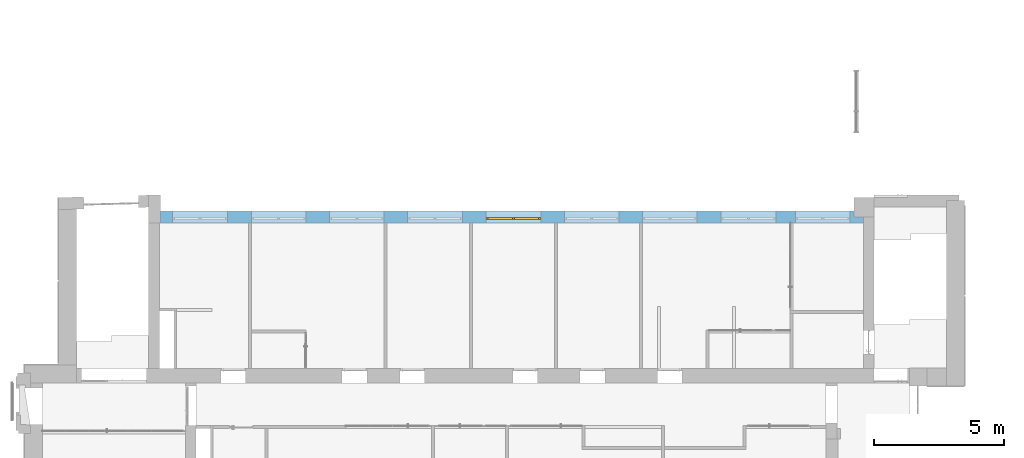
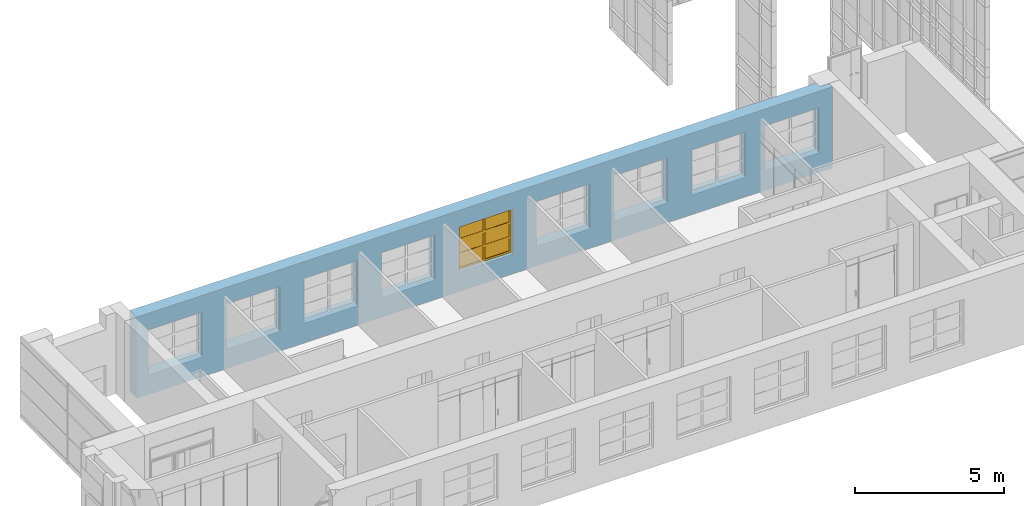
# One storey, part 63 of 73: 1 window, 9 openings, plus 1 element that does not belong to this part.
"""IFC2X3 building model written with IfcOpenShell, lengths in millimetres."""

from ifc_helpers import new_model, entity, si_unit, converted_unit, derived_unit, direction, frame, frame_2d, origin, origin_2d_with_axis, place, context, subcontext, project, spatial, polyline, rectangle, outline, extrude, face_set, surface_model, source, transform, mapped, material, material_list, layer, layer_set, layer_usage, type_object, type_shapes, element, fill, save


model = new_model("IFC2X3")

# Units and contexts
model_context = context("Model", 3, precision=0.01, world=origin(), true_north=direction((6.12303176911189e-17, 1.0)))
body_context = subcontext(model_context, "Body", "Model", "MODEL_VIEW")
ifc_project = project(units=[si_unit("LENGTHUNIT", "METRE", prefix="MILLI"), si_unit("AREAUNIT", "SQUARE_METRE"), si_unit("VOLUMEUNIT", "CUBIC_METRE"), converted_unit("PLANEANGLEUNIT", "DEGREE", entity("IfcRatioMeasure", 0.0174532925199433), si_unit("PLANEANGLEUNIT", "RADIAN"), dimensions=[0, 0, 0, 0, 0, 0, 0]), si_unit("MASSUNIT", "GRAM", prefix="KILO"), derived_unit("MASSDENSITYUNIT", [(si_unit("MASSUNIT", "GRAM", prefix="KILO"), 1), (si_unit("LENGTHUNIT", "METRE"), -3)]), si_unit("TIMEUNIT", "SECOND"), si_unit("FREQUENCYUNIT", "HERTZ"), si_unit("THERMODYNAMICTEMPERATUREUNIT", "DEGREE_CELSIUS"), derived_unit("THERMALTRANSMITTANCEUNIT", [(si_unit("MASSUNIT", "GRAM", prefix="KILO"), 1), (si_unit("THERMODYNAMICTEMPERATUREUNIT", "KELVIN"), -1), (si_unit("TIMEUNIT", "SECOND"), -3)]), derived_unit("VOLUMETRICFLOWRATEUNIT", [(si_unit("LENGTHUNIT", "METRE"), 3), (si_unit("TIMEUNIT", "SECOND"), -1)]), si_unit("ELECTRICCURRENTUNIT", "AMPERE"), si_unit("ELECTRICVOLTAGEUNIT", "VOLT"), si_unit("POWERUNIT", "WATT"), si_unit("FORCEUNIT", "NEWTON", prefix="KILO"), si_unit("ILLUMINANCEUNIT", "LUX"), si_unit("LUMINOUSFLUXUNIT", "LUMEN"), si_unit("LUMINOUSINTENSITYUNIT", "CANDELA"), derived_unit("USERDEFINED", [(si_unit("MASSUNIT", "GRAM", prefix="KILO"), -1), (si_unit("LENGTHUNIT", "METRE"), -2), (si_unit("TIMEUNIT", "SECOND"), 3), (si_unit("LUMINOUSFLUXUNIT", "LUMEN"), 1)]), derived_unit("LINEARVELOCITYUNIT", [(si_unit("LENGTHUNIT", "METRE"), 1), (si_unit("TIMEUNIT", "SECOND"), -1)]), si_unit("PRESSUREUNIT", "PASCAL"), derived_unit("USERDEFINED", [(si_unit("LENGTHUNIT", "METRE"), -2), (si_unit("MASSUNIT", "GRAM", prefix="KILO"), 1), (si_unit("TIMEUNIT", "SECOND"), -2)])], contexts=[model_context])

# Site, building, storey
site_placement = place(None, frame((-151.875543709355, 2715.0, 0.0)))
site = spatial("IfcSite", under=ifc_project, at=site_placement, Name="Surface", CompositionType="ELEMENT")
building_placement = place(site_placement, origin())
building = spatial("IfcBuilding", under=site, at=building_placement, CompositionType="ELEMENT")
storey_placement = place(building_placement, frame((0.0, 0.0, 6730.43000000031)))
storey = spatial("IfcBuildingStorey", under=building, at=storey_placement, Name="3 korrus", CompositionType="ELEMENT", Elevation=6730.43000000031)

# Wall, openings, window
ifc_material_1 = material(Name="Brick, Common")
ifc_layer_1 = layer(ifc_material_1, 440.0)
ifc_material_2 = material(Name="__Kips GN13_tava")
ifc_layer_2 = layer(ifc_material_2, 20.0)
ifc_layer_set = layer_set([ifc_layer_1, ifc_layer_2], Name="Basic Wall:VS-1")
ifc_layer_usage = layer_usage(ifc_layer_set, "AXIS2", "POSITIVE", -230.0)
wall_type = type_object("IfcWallType", Name="Basic Wall:VS-1", PredefinedType="STANDARD", material=ifc_layer_set)
wall_placement = place(storey_placement, frame((31972.6162682, 12380.0, 0.00203353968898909), z_axis=(0.0, 0.0, 1.0), x_axis=(-1.0, 0.0, 0.0)))
wall = element("IfcWallStandardCase", 1, at=wall_placement, inside=storey, type_object=wall_type, material=ifc_layer_usage, Name="SEIN - 005", ObjectType="Basic Wall:VS-1", context=body_context, shape_type="SweptSolid", body=[
    extrude(outline(polyline([(26972.5418693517, -230.0), (26972.5418693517, 230.0), (0.0, 230.0), (0.0, 0.0), (370.0, 0.0), (370.0, -230.0), (26972.5418693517, -230.0)])), origin(), (0.0, 0.0, 1.0), 3329.56796646),
])
opening_1_placement = place(wall_placement, frame((31972.6162682, 12380.0, -0.00203353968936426), z_axis=(0.0, 0.0, 1.0), x_axis=(-1.0, 0.0, 0.0)))
element("IfcOpeningElement", 2, at=opening_1_placement, cuts=wall, Name="SEIN - 005", ObjectType="Opening", context=body_context, shape_type="SweptSolid", body=[
    extrude(rectangle(XDim=1850.0, YDim=2100.0, at=frame_2d((0.0, -5.6843418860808e-13), x_axis=(1.0, 0.0))), frame((6512.84934801, 13077.9, 1725.00203353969), z_axis=(0.0, -1.0, 0.0), x_axis=(0.0, 0.0, 1.0)), (0.0, 0.0, 1.0), 1393.8),
])
opening_2_placement = place(wall_placement, frame((31972.6162682, 12380.0, -0.00203353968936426), z_axis=(0.0, 0.0, 1.0), x_axis=(-1.0, 0.0, 0.0)))
element("IfcOpeningElement", 3, at=opening_2_placement, cuts=wall, Name="SEIN - 005", ObjectType="Opening", context=body_context, shape_type="SweptSolid", body=[
    extrude(rectangle(XDim=1850.0, YDim=2100.0, at=origin_2d_with_axis()), frame((9532.84934801, 13077.9, 1725.00203353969), z_axis=(0.0, -1.0, 0.0), x_axis=(0.0, 0.0, 1.0)), (0.0, 0.0, 1.0), 1393.8),
])
opening_3_placement = place(wall_placement, frame((31972.6162682, 12380.0, -0.00203353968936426), z_axis=(0.0, 0.0, 1.0), x_axis=(-1.0, 0.0, 0.0)))
element("IfcOpeningElement", 4, at=opening_3_placement, cuts=wall, Name="SEIN - 005", ObjectType="Opening", context=body_context, shape_type="SweptSolid", body=[
    extrude(rectangle(XDim=1850.0, YDim=2100.0, at=frame_2d((0.0, -1.02318153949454e-12), x_axis=(1.0, 0.0))), frame((12532.84934801, 13077.9, 1725.00203353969), z_axis=(0.0, -1.0, 0.0), x_axis=(0.0, 0.0, 1.0)), (0.0, 0.0, 1.0), 1393.8),
])
opening_4_placement = place(wall_placement, frame((31972.6162682, 12380.0, -0.00203353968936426), z_axis=(0.0, 0.0, 1.0), x_axis=(-1.0, 0.0, 0.0)))
element("IfcOpeningElement", 5, at=opening_4_placement, cuts=wall, Name="SEIN - 005", ObjectType="Opening", context=body_context, shape_type="SweptSolid", body=[
    extrude(rectangle(XDim=1850.0, YDim=2100.0, at=origin_2d_with_axis()), frame((15532.849348, 13077.9, 1725.00203353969), z_axis=(0.0, -1.0, 0.0), x_axis=(0.0, 0.0, 1.0)), (0.0, 0.0, 1.0), 1393.8),
])
opening_5_placement = place(wall_placement, frame((31972.6162682, 12380.0, -0.00203353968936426), z_axis=(0.0, 0.0, 1.0), x_axis=(-1.0, 0.0, 0.0)))
opening_5 = element("IfcOpeningElement", 6, at=opening_5_placement, cuts=wall, Name="SEIN - 005", ObjectType="Opening", context=body_context, shape_type="SweptSolid", body=[
    extrude(rectangle(XDim=1850.0, YDim=2100.0, at=origin_2d_with_axis()), frame((18542.849348, 13077.9, 1725.00203353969), z_axis=(0.0, -1.0, 0.0), x_axis=(0.0, 0.0, 1.0)), (0.0, 0.0, 1.0), 1393.8),
])
opening_6_placement = place(wall_placement, frame((31972.6162682, 12380.0, -0.00203353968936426), z_axis=(0.0, 0.0, 1.0), x_axis=(-1.0, 0.0, 0.0)))
element("IfcOpeningElement", 7, at=opening_6_placement, cuts=wall, Name="SEIN - 005", ObjectType="Opening", context=body_context, shape_type="SweptSolid", body=[
    extrude(rectangle(XDim=1850.0, YDim=2100.0, at=origin_2d_with_axis()), frame((21543.0530903, 13077.9, 1725.00203353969), z_axis=(0.0, -1.0, 0.0), x_axis=(0.0, 0.0, 1.0)), (0.0, 0.0, 1.0), 1393.8),
])
opening_7_placement = place(wall_placement, frame((31972.6162682, 12380.0, -0.00203353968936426), z_axis=(0.0, 0.0, 1.0), x_axis=(-1.0, 0.0, 0.0)))
element("IfcOpeningElement", 8, at=opening_7_placement, cuts=wall, Name="SEIN - 005", ObjectType="Opening", context=body_context, shape_type="SweptSolid", body=[
    extrude(rectangle(XDim=1850.0, YDim=2100.0, at=origin_2d_with_axis()), frame((24543.0530903, 13077.9, 1725.00203353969), z_axis=(0.0, -1.0, 0.0), x_axis=(0.0, 0.0, 1.0)), (0.0, 0.0, 1.0), 1393.8),
])
opening_8_placement = place(wall_placement, frame((31972.6162682, 12380.0, -0.00203353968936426), z_axis=(0.0, 0.0, 1.0), x_axis=(-1.0, 0.0, 0.0)))
element("IfcOpeningElement", 9, at=opening_8_placement, cuts=wall, Name="SEIN - 005", ObjectType="Opening", context=body_context, shape_type="SweptSolid", body=[
    extrude(rectangle(XDim=1850.0, YDim=2100.0, at=origin_2d_with_axis()), frame((27563.0530903, 13077.9, 1725.00203353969), z_axis=(0.0, -1.0, 0.0), x_axis=(0.0, 0.0, 1.0)), (0.0, 0.0, 1.0), 1393.8),
])
opening_9_placement = place(wall_placement, frame((31972.6162682, 12380.0, -0.00203353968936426), z_axis=(0.0, 0.0, 1.0), x_axis=(-1.0, 0.0, 0.0)))
element("IfcOpeningElement", 10, at=opening_9_placement, cuts=wall, Name="SEIN - 005", ObjectType="Opening", context=body_context, shape_type="SweptSolid", body=[
    extrude(rectangle(XDim=1850.0, YDim=2100.0, at=origin_2d_with_axis()), frame((30412.5729235, 13077.9, 1725.00203353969), z_axis=(0.0, -1.0, 0.0), x_axis=(0.0, 0.0, 1.0)), (0.0, 0.0, 1.0), 1393.8),
])
ifc_material_3 = material(Name="Paint - Titanium White")
ifc_material_4 = material(Name="Paint - Dark Gray")
ifc_material_5 = material(Name="Glass - Clear Fast")
ifc_material_list_1 = material_list([ifc_material_3, ifc_material_4, ifc_material_5])
ifc_material_list_2 = material_list([ifc_material_3, ifc_material_4, ifc_material_5])
window_style = type_object("IfcWindowStyle", Name="Aken_1850x2100", ConstructionType="NOTDEFINED", OperationType="DOUBLE_PANEL_VERTICAL", ParameterTakesPrecedence=False, Sizeable=False, material=ifc_material_list_2)
shared_shape = source(origin(), body_context, "Body", "SurfaceModel", [
    surface_model("IfcFaceBasedSurfaceModel", [(80.0, -665.9, 1770.0), (80.0, -620.9, 1770.0), (0.0, -620.9, 1770.0), (0.0, -665.9, 1770.0), (80.0, -665.9, 80.0), (80.0, -620.9, 80.0), (80.0, -620.9, 1770.0), (80.0, -665.9, 1770.0), (80.0, -620.9, 1770.0), (80.0, -620.9, 80.0), (0.0, -620.9, 80.0), (0.0, -620.9, 1770.0), (0.0, -665.9, 1770.0), (0.0, -620.9, 1770.0), (0.0, -620.9, 80.0), (0.0, -665.9, 80.0), (80.0, -665.9, 1770.0), (0.0, -665.9, 1770.0), (0.0, -665.9, 80.0), (80.0, -665.9, 80.0), (0.0, -665.9, 80.0), (0.0, -620.9, 80.0), (80.0, -620.9, 80.0), (80.0, -665.9, 80.0), (2020.0, -665.9, 80.0), (2020.0, -620.9, 80.0), (2100.0, -620.9, 80.0), (2100.0, -665.9, 80.0), (2020.0, -665.9, 1770.0), (2020.0, -620.9, 1770.0), (2020.0, -620.9, 80.0), (2020.0, -665.9, 80.0), (2020.0, -620.9, 80.0), (2020.0, -620.9, 1770.0), (2100.0, -620.9, 1770.0), (2100.0, -620.9, 80.0), (2100.0, -665.9, 80.0), (2100.0, -620.9, 80.0), (2100.0, -620.9, 1770.0), (2100.0, -665.9, 1770.0), (2020.0, -665.9, 80.0), (2100.0, -665.9, 80.0), (2100.0, -665.9, 1770.0), (2020.0, -665.9, 1770.0), (2100.0, -665.9, 1770.0), (2100.0, -620.9, 1770.0), (2020.0, -620.9, 1770.0), (2020.0, -665.9, 1770.0), (1010.0, -665.9, 80.0), (1010.0, -620.9, 80.0), (1090.0, -620.9, 80.0), (1090.0, -665.9, 80.0), (1010.0, -665.9, 1770.0), (1010.0, -620.9, 1770.0), (1010.0, -620.9, 80.0), (1010.0, -665.9, 80.0), (1010.0, -620.9, 80.0), (1010.0, -620.9, 1770.0), (1090.0, -620.9, 1770.0), (1090.0, -620.9, 80.0), (1090.0, -665.9, 80.0), (1090.0, -620.9, 80.0), (1090.0, -620.9, 1770.0), (1090.0, -665.9, 1770.0), (1010.0, -665.9, 80.0), (1090.0, -665.9, 80.0), (1090.0, -665.9, 1770.0), (1010.0, -665.9, 1770.0), (1090.0, -665.9, 1770.0), (1090.0, -620.9, 1770.0), (1010.0, -620.9, 1770.0), (1010.0, -665.9, 1770.0), (80.0, -665.9, 80.0), (80.0, -620.9, 80.0), (0.0, -620.9, 80.0), (0.0, -665.9, 80.0), (1010.0, -665.9, 80.0), (1010.0, -620.9, 80.0), (80.0, -620.9, 80.0), (80.0, -665.9, 80.0), (80.0, -620.9, 80.0), (1010.0, -620.9, 80.0), (1090.0, -620.9, 80.0), (2020.0, -620.9, 80.0), (2100.0, -620.9, 80.0), (2100.0, -620.9, 0.0), (0.0, -620.9, 0.0), (0.0, -620.9, 80.0), (0.0, -665.9, 80.0), (0.0, -620.9, 80.0), (0.0, -620.9, 0.0), (0.0, -665.9, 0.0), (80.0, -665.9, 80.0), (0.0, -665.9, 80.0), (0.0, -665.9, 0.0), (2100.0, -665.9, 0.0), (2100.0, -665.9, 80.0), (2020.0, -665.9, 80.0), (1090.0, -665.9, 80.0), (1010.0, -665.9, 80.0), (1090.0, -665.9, 80.0), (1090.0, -620.9, 80.0), (1010.0, -620.9, 80.0), (1010.0, -665.9, 80.0), (2020.0, -665.9, 80.0), (2020.0, -620.9, 80.0), (1090.0, -620.9, 80.0), (1090.0, -665.9, 80.0), (2100.0, -665.9, 80.0), (2100.0, -620.9, 80.0), (2020.0, -620.9, 80.0), (2020.0, -665.9, 80.0), (2100.0, -665.9, 0.0), (2100.0, -620.9, 0.0), (2100.0, -620.9, 80.0), (2100.0, -665.9, 80.0), (0.0, -665.9, 0.0), (0.0, -620.9, 0.0), (2100.0, -620.9, 0.0), (2100.0, -665.9, 0.0), (1010.0, -665.9, 1770.0), (1010.0, -620.9, 1770.0), (1090.0, -620.9, 1770.0), (1090.0, -665.9, 1770.0), (80.0, -665.9, 1770.0), (80.0, -620.9, 1770.0), (1010.0, -620.9, 1770.0), (1010.0, -665.9, 1770.0), (1010.0, -620.9, 1770.0), (80.0, -620.9, 1770.0), (0.0, -620.9, 1770.0), (0.0, -620.9, 1850.0), (2100.0, -620.9, 1850.0), (2100.0, -620.9, 1770.0), (2020.0, -620.9, 1770.0), (1090.0, -620.9, 1770.0), (1090.0, -665.9, 1770.0), (1090.0, -620.9, 1770.0), (2020.0, -620.9, 1770.0), (2020.0, -665.9, 1770.0), (1010.0, -665.9, 1770.0), (1090.0, -665.9, 1770.0), (2020.0, -665.9, 1770.0), (2100.0, -665.9, 1770.0), (2100.0, -665.9, 1850.0), (0.0, -665.9, 1850.0), (0.0, -665.9, 1770.0), (80.0, -665.9, 1770.0), (0.0, -665.9, 1770.0), (0.0, -620.9, 1770.0), (80.0, -620.9, 1770.0), (80.0, -665.9, 1770.0), (0.0, -665.9, 1850.0), (0.0, -620.9, 1850.0), (0.0, -620.9, 1770.0), (0.0, -665.9, 1770.0), (2100.0, -665.9, 1850.0), (2100.0, -620.9, 1850.0), (0.0, -620.9, 1850.0), (0.0, -665.9, 1850.0), (2100.0, -665.9, 1770.0), (2100.0, -620.9, 1770.0), (2100.0, -620.9, 1850.0), (2100.0, -665.9, 1850.0), (2020.0, -665.9, 1770.0), (2020.0, -620.9, 1770.0), (2100.0, -620.9, 1770.0), (2100.0, -665.9, 1770.0), (80.0, -640.9, 590.0), (80.0, -630.9, 590.0), (1010.0, -630.9, 590.0), (1010.0, -640.9, 590.0), (80.0, -640.9, 670.0), (80.0, -630.9, 670.0), (80.0, -630.9, 590.0), (80.0, -640.9, 590.0), (80.0, -630.9, 590.0), (80.0, -630.9, 670.0), (1010.0, -630.9, 670.0), (1010.0, -630.9, 590.0), (1010.0, -640.9, 590.0), (1010.0, -630.9, 590.0), (1010.0, -630.9, 670.0), (1010.0, -640.9, 670.0), (80.0, -640.9, 590.0), (1010.0, -640.9, 590.0), (1010.0, -640.9, 670.0), (80.0, -640.9, 670.0), (1010.0, -640.9, 670.0), (1010.0, -630.9, 670.0), (80.0, -630.9, 670.0), (80.0, -640.9, 670.0), (80.0, -640.9, 1180.0), (80.0, -630.9, 1180.0), (1010.0, -630.9, 1180.0), (1010.0, -640.9, 1180.0), (80.0, -640.9, 1260.0), (80.0, -630.9, 1260.0), (80.0, -630.9, 1180.0), (80.0, -640.9, 1180.0), (80.0, -630.9, 1180.0), (80.0, -630.9, 1260.0), (1010.0, -630.9, 1260.0), (1010.0, -630.9, 1180.0), (1010.0, -640.9, 1180.0), (1010.0, -630.9, 1180.0), (1010.0, -630.9, 1260.0), (1010.0, -640.9, 1260.0), (80.0, -640.9, 1180.0), (1010.0, -640.9, 1180.0), (1010.0, -640.9, 1260.0), (80.0, -640.9, 1260.0), (1010.0, -640.9, 1260.0), (1010.0, -630.9, 1260.0), (80.0, -630.9, 1260.0), (80.0, -640.9, 1260.0), (1090.0, -640.9, 590.0), (1090.0, -630.9, 590.0), (2020.0, -630.9, 590.0), (2020.0, -640.9, 590.0), (1090.0, -640.9, 670.0), (1090.0, -630.9, 670.0), (1090.0, -630.9, 590.0), (1090.0, -640.9, 590.0), (1090.0, -630.9, 590.0), (1090.0, -630.9, 670.0), (2020.0, -630.9, 670.0), (2020.0, -630.9, 590.0), (2020.0, -640.9, 590.0), (2020.0, -630.9, 590.0), (2020.0, -630.9, 670.0), (2020.0, -640.9, 670.0), (1090.0, -640.9, 590.0), (2020.0, -640.9, 590.0), (2020.0, -640.9, 670.0), (1090.0, -640.9, 670.0), (2020.0, -640.9, 670.0), (2020.0, -630.9, 670.0), (1090.0, -630.9, 670.0), (1090.0, -640.9, 670.0), (1090.0, -640.9, 1180.0), (1090.0, -630.9, 1180.0), (2020.0, -630.9, 1180.0), (2020.0, -640.9, 1180.0), (1090.0, -640.9, 1260.0), (1090.0, -630.9, 1260.0), (1090.0, -630.9, 1180.0), (1090.0, -640.9, 1180.0), (1090.0, -630.9, 1180.0), (1090.0, -630.9, 1260.0), (2020.0, -630.9, 1260.0), (2020.0, -630.9, 1180.0), (2020.0, -640.9, 1180.0), (2020.0, -630.9, 1180.0), (2020.0, -630.9, 1260.0), (2020.0, -640.9, 1260.0), (1090.0, -640.9, 1180.0), (2020.0, -640.9, 1180.0), (2020.0, -640.9, 1260.0), (1090.0, -640.9, 1260.0), (2020.0, -640.9, 1260.0), (2020.0, -630.9, 1260.0), (1090.0, -630.9, 1260.0), (1090.0, -640.9, 1260.0)], [face_set([[[0, 1, 2, 3]]]), face_set([[[4, 5, 6, 7]]]), face_set([[[8, 9, 10, 11]]]), face_set([[[12, 13, 14, 15]]]), face_set([[[16, 17, 18, 19]]]), face_set([[[20, 21, 22, 23]]]), face_set([[[24, 25, 26, 27]]]), face_set([[[28, 29, 30, 31]]]), face_set([[[32, 33, 34, 35]]]), face_set([[[36, 37, 38, 39]]]), face_set([[[40, 41, 42, 43]]]), face_set([[[44, 45, 46, 47]]]), face_set([[[48, 49, 50, 51]]]), face_set([[[52, 53, 54, 55]]]), face_set([[[56, 57, 58, 59]]]), face_set([[[60, 61, 62, 63]]]), face_set([[[64, 65, 66, 67]]]), face_set([[[68, 69, 70, 71]]]), face_set([[[72, 73, 74, 75]]]), face_set([[[76, 77, 78, 79]]]), face_set([[[80, 81, 82, 83, 84, 85, 86, 87]]]), face_set([[[88, 89, 90, 91]]]), face_set([[[92, 93, 94, 95, 96, 97, 98, 99]]]), face_set([[[100, 101, 102, 103]]]), face_set([[[104, 105, 106, 107]]]), face_set([[[108, 109, 110, 111]]]), face_set([[[112, 113, 114, 115]]]), face_set([[[116, 117, 118, 119]]]), face_set([[[120, 121, 122, 123]]]), face_set([[[124, 125, 126, 127]]]), face_set([[[128, 129, 130, 131, 132, 133, 134, 135]]]), face_set([[[136, 137, 138, 139]]]), face_set([[[140, 141, 142, 143, 144, 145, 146, 147]]]), face_set([[[148, 149, 150, 151]]]), face_set([[[152, 153, 154, 155]]]), face_set([[[156, 157, 158, 159]]]), face_set([[[160, 161, 162, 163]]]), face_set([[[164, 165, 166, 167]]]), face_set([[[168, 169, 170, 171]]]), face_set([[[172, 173, 174, 175]]]), face_set([[[176, 177, 178, 179]]]), face_set([[[180, 181, 182, 183]]]), face_set([[[184, 185, 186, 187]]]), face_set([[[188, 189, 190, 191]]]), face_set([[[192, 193, 194, 195]]]), face_set([[[196, 197, 198, 199]]]), face_set([[[200, 201, 202, 203]]]), face_set([[[204, 205, 206, 207]]]), face_set([[[208, 209, 210, 211]]]), face_set([[[212, 213, 214, 215]]]), face_set([[[216, 217, 218, 219]]]), face_set([[[220, 221, 222, 223]]]), face_set([[[224, 225, 226, 227]]]), face_set([[[228, 229, 230, 231]]]), face_set([[[232, 233, 234, 235]]]), face_set([[[236, 237, 238, 239]]]), face_set([[[240, 241, 242, 243]]]), face_set([[[244, 245, 246, 247]]]), face_set([[[248, 249, 250, 251]]]), face_set([[[252, 253, 254, 255]]]), face_set([[[256, 257, 258, 259]]]), face_set([[[260, 261, 262, 263]]])]),
    surface_model("IfcFaceBasedSurfaceModel", [(80.0, -620.9, 1770.0), (80.0, -595.9, 1770.0), (0.0, -595.9, 1770.0), (0.0, -620.9, 1770.0), (80.0, -620.9, 80.0), (80.0, -595.9, 80.0), (80.0, -595.9, 1770.0), (80.0, -620.9, 1770.0), (80.0, -595.9, 1770.0), (80.0, -595.9, 80.0), (0.0, -595.9, 80.0), (0.0, -595.9, 1770.0), (0.0, -620.9, 1770.0), (0.0, -595.9, 1770.0), (0.0, -595.9, 80.0), (0.0, -620.9, 80.0), (80.0, -620.9, 1770.0), (0.0, -620.9, 1770.0), (0.0, -620.9, 80.0), (80.0, -620.9, 80.0), (0.0, -620.9, 80.0), (0.0, -595.9, 80.0), (80.0, -595.9, 80.0), (80.0, -620.9, 80.0), (2020.0, -620.9, 80.0), (2020.0, -595.9, 80.0), (2100.0, -595.9, 80.0), (2100.0, -620.9, 80.0), (2020.0, -620.9, 1770.0), (2020.0, -595.9, 1770.0), (2020.0, -595.9, 80.0), (2020.0, -620.9, 80.0), (2020.0, -595.9, 80.0), (2020.0, -595.9, 1770.0), (2100.0, -595.9, 1770.0), (2100.0, -595.9, 80.0), (2100.0, -620.9, 80.0), (2100.0, -595.9, 80.0), (2100.0, -595.9, 1770.0), (2100.0, -620.9, 1770.0), (2020.0, -620.9, 80.0), (2100.0, -620.9, 80.0), (2100.0, -620.9, 1770.0), (2020.0, -620.9, 1770.0), (2100.0, -620.9, 1770.0), (2100.0, -595.9, 1770.0), (2020.0, -595.9, 1770.0), (2020.0, -620.9, 1770.0), (1010.0, -620.9, 80.0), (1010.0, -595.9, 80.0), (1090.0, -595.9, 80.0), (1090.0, -620.9, 80.0), (1010.0, -620.9, 1770.0), (1010.0, -595.9, 1770.0), (1010.0, -595.9, 80.0), (1010.0, -620.9, 80.0), (1010.0, -595.9, 80.0), (1010.0, -595.9, 1770.0), (1090.0, -595.9, 1770.0), (1090.0, -595.9, 80.0), (1090.0, -620.9, 80.0), (1090.0, -595.9, 80.0), (1090.0, -595.9, 1770.0), (1090.0, -620.9, 1770.0), (1010.0, -620.9, 80.0), (1090.0, -620.9, 80.0), (1090.0, -620.9, 1770.0), (1010.0, -620.9, 1770.0), (1090.0, -620.9, 1770.0), (1090.0, -595.9, 1770.0), (1010.0, -595.9, 1770.0), (1010.0, -620.9, 1770.0), (80.0, -620.9, 80.0), (80.0, -595.9, 80.0), (0.0, -595.9, 80.0), (0.0, -620.9, 80.0), (1010.0, -620.9, 80.0), (1010.0, -595.9, 80.0), (80.0, -595.9, 80.0), (80.0, -620.9, 80.0), (80.0, -595.9, 80.0), (1010.0, -595.9, 80.0), (1090.0, -595.9, 80.0), (2020.0, -595.9, 80.0), (2100.0, -595.9, 80.0), (2100.0, -595.9, 0.0), (0.0, -595.9, 0.0), (0.0, -595.9, 80.0), (0.0, -620.9, 80.0), (0.0, -595.9, 80.0), (0.0, -595.9, 0.0), (0.0, -620.9, 0.0), (80.0, -620.9, 80.0), (0.0, -620.9, 80.0), (0.0, -620.9, 0.0), (2100.0, -620.9, 0.0), (2100.0, -620.9, 80.0), (2020.0, -620.9, 80.0), (1090.0, -620.9, 80.0), (1010.0, -620.9, 80.0), (1090.0, -620.9, 80.0), (1090.0, -595.9, 80.0), (1010.0, -595.9, 80.0), (1010.0, -620.9, 80.0), (2020.0, -620.9, 80.0), (2020.0, -595.9, 80.0), (1090.0, -595.9, 80.0), (1090.0, -620.9, 80.0), (2100.0, -620.9, 80.0), (2100.0, -595.9, 80.0), (2020.0, -595.9, 80.0), (2020.0, -620.9, 80.0), (2100.0, -620.9, 0.0), (2100.0, -595.9, 0.0), (2100.0, -595.9, 80.0), (2100.0, -620.9, 80.0), (0.0, -620.9, 0.0), (0.0, -595.9, 0.0), (2100.0, -595.9, 0.0), (2100.0, -620.9, 0.0), (1010.0, -620.9, 1770.0), (1010.0, -595.9, 1770.0), (1090.0, -595.9, 1770.0), (1090.0, -620.9, 1770.0), (80.0, -620.9, 1770.0), (80.0, -595.9, 1770.0), (1010.0, -595.9, 1770.0), (1010.0, -620.9, 1770.0), (1010.0, -595.9, 1770.0), (80.0, -595.9, 1770.0), (0.0, -595.9, 1770.0), (0.0, -595.9, 1850.0), (2100.0, -595.9, 1850.0), (2100.0, -595.9, 1770.0), (2020.0, -595.9, 1770.0), (1090.0, -595.9, 1770.0), (1090.0, -620.9, 1770.0), (1090.0, -595.9, 1770.0), (2020.0, -595.9, 1770.0), (2020.0, -620.9, 1770.0), (1010.0, -620.9, 1770.0), (1090.0, -620.9, 1770.0), (2020.0, -620.9, 1770.0), (2100.0, -620.9, 1770.0), (2100.0, -620.9, 1850.0), (0.0, -620.9, 1850.0), (0.0, -620.9, 1770.0), (80.0, -620.9, 1770.0), (0.0, -620.9, 1770.0), (0.0, -595.9, 1770.0), (80.0, -595.9, 1770.0), (80.0, -620.9, 1770.0), (0.0, -620.9, 1850.0), (0.0, -595.9, 1850.0), (0.0, -595.9, 1770.0), (0.0, -620.9, 1770.0), (2100.0, -620.9, 1850.0), (2100.0, -595.9, 1850.0), (0.0, -595.9, 1850.0), (0.0, -620.9, 1850.0), (2100.0, -620.9, 1770.0), (2100.0, -595.9, 1770.0), (2100.0, -595.9, 1850.0), (2100.0, -620.9, 1850.0), (2020.0, -620.9, 1770.0), (2020.0, -595.9, 1770.0), (2100.0, -595.9, 1770.0), (2100.0, -620.9, 1770.0), (80.0, -630.9, 590.0), (80.0, -600.9, 590.0), (1010.0, -600.9, 590.0), (1010.0, -630.9, 590.0), (80.0, -630.9, 670.0), (80.0, -600.9, 670.0), (80.0, -600.9, 590.0), (80.0, -630.9, 590.0), (80.0, -600.9, 590.0), (80.0, -600.9, 670.0), (1010.0, -600.9, 670.0), (1010.0, -600.9, 590.0), (1010.0, -630.9, 590.0), (1010.0, -600.9, 590.0), (1010.0, -600.9, 670.0), (1010.0, -630.9, 670.0), (80.0, -630.9, 590.0), (1010.0, -630.9, 590.0), (1010.0, -630.9, 670.0), (80.0, -630.9, 670.0), (1010.0, -630.9, 670.0), (1010.0, -600.9, 670.0), (80.0, -600.9, 670.0), (80.0, -630.9, 670.0), (80.0, -630.9, 1180.0), (80.0, -600.9, 1180.0), (1010.0, -600.9, 1180.0), (1010.0, -630.9, 1180.0), (80.0, -630.9, 1260.0), (80.0, -600.9, 1260.0), (80.0, -600.9, 1180.0), (80.0, -630.9, 1180.0), (80.0, -600.9, 1180.0), (80.0, -600.9, 1260.0), (1010.0, -600.9, 1260.0), (1010.0, -600.9, 1180.0), (1010.0, -630.9, 1180.0), (1010.0, -600.9, 1180.0), (1010.0, -600.9, 1260.0), (1010.0, -630.9, 1260.0), (80.0, -630.9, 1180.0), (1010.0, -630.9, 1180.0), (1010.0, -630.9, 1260.0), (80.0, -630.9, 1260.0), (1010.0, -630.9, 1260.0), (1010.0, -600.9, 1260.0), (80.0, -600.9, 1260.0), (80.0, -630.9, 1260.0), (1090.0, -630.9, 590.0), (1090.0, -600.9, 590.0), (2020.0, -600.9, 590.0), (2020.0, -630.9, 590.0), (1090.0, -630.9, 670.0), (1090.0, -600.9, 670.0), (1090.0, -600.9, 590.0), (1090.0, -630.9, 590.0), (1090.0, -600.9, 590.0), (1090.0, -600.9, 670.0), (2020.0, -600.9, 670.0), (2020.0, -600.9, 590.0), (2020.0, -630.9, 590.0), (2020.0, -600.9, 590.0), (2020.0, -600.9, 670.0), (2020.0, -630.9, 670.0), (1090.0, -630.9, 590.0), (2020.0, -630.9, 590.0), (2020.0, -630.9, 670.0), (1090.0, -630.9, 670.0), (2020.0, -630.9, 670.0), (2020.0, -600.9, 670.0), (1090.0, -600.9, 670.0), (1090.0, -630.9, 670.0), (1090.0, -630.9, 1180.0), (1090.0, -600.9, 1180.0), (2020.0, -600.9, 1180.0), (2020.0, -630.9, 1180.0), (1090.0, -630.9, 1260.0), (1090.0, -600.9, 1260.0), (1090.0, -600.9, 1180.0), (1090.0, -630.9, 1180.0), (1090.0, -600.9, 1180.0), (1090.0, -600.9, 1260.0), (2020.0, -600.9, 1260.0), (2020.0, -600.9, 1180.0), (2020.0, -630.9, 1180.0), (2020.0, -600.9, 1180.0), (2020.0, -600.9, 1260.0), (2020.0, -630.9, 1260.0), (1090.0, -630.9, 1180.0), (2020.0, -630.9, 1180.0), (2020.0, -630.9, 1260.0), (1090.0, -630.9, 1260.0), (2020.0, -630.9, 1260.0), (2020.0, -600.9, 1260.0), (1090.0, -600.9, 1260.0), (1090.0, -630.9, 1260.0)], [face_set([[[0, 1, 2, 3]]]), face_set([[[4, 5, 6, 7]]]), face_set([[[8, 9, 10, 11]]]), face_set([[[12, 13, 14, 15]]]), face_set([[[16, 17, 18, 19]]]), face_set([[[20, 21, 22, 23]]]), face_set([[[24, 25, 26, 27]]]), face_set([[[28, 29, 30, 31]]]), face_set([[[32, 33, 34, 35]]]), face_set([[[36, 37, 38, 39]]]), face_set([[[40, 41, 42, 43]]]), face_set([[[44, 45, 46, 47]]]), face_set([[[48, 49, 50, 51]]]), face_set([[[52, 53, 54, 55]]]), face_set([[[56, 57, 58, 59]]]), face_set([[[60, 61, 62, 63]]]), face_set([[[64, 65, 66, 67]]]), face_set([[[68, 69, 70, 71]]]), face_set([[[72, 73, 74, 75]]]), face_set([[[76, 77, 78, 79]]]), face_set([[[80, 81, 82, 83, 84, 85, 86, 87]]]), face_set([[[88, 89, 90, 91]]]), face_set([[[92, 93, 94, 95, 96, 97, 98, 99]]]), face_set([[[100, 101, 102, 103]]]), face_set([[[104, 105, 106, 107]]]), face_set([[[108, 109, 110, 111]]]), face_set([[[112, 113, 114, 115]]]), face_set([[[116, 117, 118, 119]]]), face_set([[[120, 121, 122, 123]]]), face_set([[[124, 125, 126, 127]]]), face_set([[[128, 129, 130, 131, 132, 133, 134, 135]]]), face_set([[[136, 137, 138, 139]]]), face_set([[[140, 141, 142, 143, 144, 145, 146, 147]]]), face_set([[[148, 149, 150, 151]]]), face_set([[[152, 153, 154, 155]]]), face_set([[[156, 157, 158, 159]]]), face_set([[[160, 161, 162, 163]]]), face_set([[[164, 165, 166, 167]]]), face_set([[[168, 169, 170, 171]]]), face_set([[[172, 173, 174, 175]]]), face_set([[[176, 177, 178, 179]]]), face_set([[[180, 181, 182, 183]]]), face_set([[[184, 185, 186, 187]]]), face_set([[[188, 189, 190, 191]]]), face_set([[[192, 193, 194, 195]]]), face_set([[[196, 197, 198, 199]]]), face_set([[[200, 201, 202, 203]]]), face_set([[[204, 205, 206, 207]]]), face_set([[[208, 209, 210, 211]]]), face_set([[[212, 213, 214, 215]]]), face_set([[[216, 217, 218, 219]]]), face_set([[[220, 221, 222, 223]]]), face_set([[[224, 225, 226, 227]]]), face_set([[[228, 229, 230, 231]]]), face_set([[[232, 233, 234, 235]]]), face_set([[[236, 237, 238, 239]]]), face_set([[[240, 241, 242, 243]]]), face_set([[[244, 245, 246, 247]]]), face_set([[[248, 249, 250, 251]]]), face_set([[[252, 253, 254, 255]]]), face_set([[[256, 257, 258, 259]]]), face_set([[[260, 261, 262, 263]]])]),
    surface_model("IfcFaceBasedSurfaceModel", [(1010.0, -630.9, 80.0), (1010.0, -630.9, 590.0), (80.0, -630.9, 590.0), (80.0, -630.9, 80.0), (1010.0, -610.9, 80.0), (80.0, -610.9, 80.0), (80.0, -610.9, 590.0), (1010.0, -610.9, 590.0), (1010.0, -630.9, 670.0), (1010.0, -630.9, 1180.0), (80.0, -630.9, 1180.0), (80.0, -630.9, 670.0), (1010.0, -610.9, 670.0), (80.0, -610.9, 670.0), (80.0, -610.9, 1180.0), (1010.0, -610.9, 1180.0), (1010.0, -630.9, 1260.0), (1010.0, -630.9, 1770.0), (80.0, -630.9, 1770.0), (80.0, -630.9, 1260.0), (1010.0, -610.9, 1260.0), (80.0, -610.9, 1260.0), (80.0, -610.9, 1770.0), (1010.0, -610.9, 1770.0), (2020.0, -630.9, 80.0), (2020.0, -630.9, 590.0), (1090.0, -630.9, 590.0), (1090.0, -630.9, 80.0), (2020.0, -610.9, 80.0), (1090.0, -610.9, 80.0), (1090.0, -610.9, 590.0), (2020.0, -610.9, 590.0), (2020.0, -630.9, 670.0), (2020.0, -630.9, 1180.0), (1090.0, -630.9, 1180.0), (1090.0, -630.9, 670.0), (2020.0, -610.9, 670.0), (1090.0, -610.9, 670.0), (1090.0, -610.9, 1180.0), (2020.0, -610.9, 1180.0), (2020.0, -630.9, 1260.0), (2020.0, -630.9, 1770.0), (1090.0, -630.9, 1770.0), (1090.0, -630.9, 1260.0), (2020.0, -610.9, 1260.0), (1090.0, -610.9, 1260.0), (1090.0, -610.9, 1770.0), (2020.0, -610.9, 1770.0)], [face_set([[[0, 1, 2, 3]]]), face_set([[[4, 5, 6, 7]]]), face_set([[[8, 9, 10, 11]]]), face_set([[[12, 13, 14, 15]]]), face_set([[[16, 17, 18, 19]]]), face_set([[[20, 21, 22, 23]]]), face_set([[[24, 25, 26, 27]]]), face_set([[[28, 29, 30, 31]]]), face_set([[[32, 33, 34, 35]]]), face_set([[[36, 37, 38, 39]]]), face_set([[[40, 41, 42, 43]]]), face_set([[[44, 45, 46, 47]]])]),
])
type_shapes(window_style, [shared_shape])
window_placement = place(opening_5_placement, frame((19592.849348, 11684.1, 800.002033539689), z_axis=(0.0, 0.0, 1.0), x_axis=(-1.0, 0.0, 0.0)))
window = element("IfcWindow", 11, at=window_placement, inside=storey, type_object=window_style, material=ifc_material_list_1, Name="Aken_1850x2100:Aken_1850x2100", ObjectType="Aken_1850x2100", OverallHeight=2100.0, OverallWidth=1850.0, context=body_context, shape_type="MappedRepresentation", body=[
    mapped(shared_shape, transform((0.0, 0.0, 0.0), scale=1.0)),
])
fill(opening_5, window)

save(model, "model.ifc")
